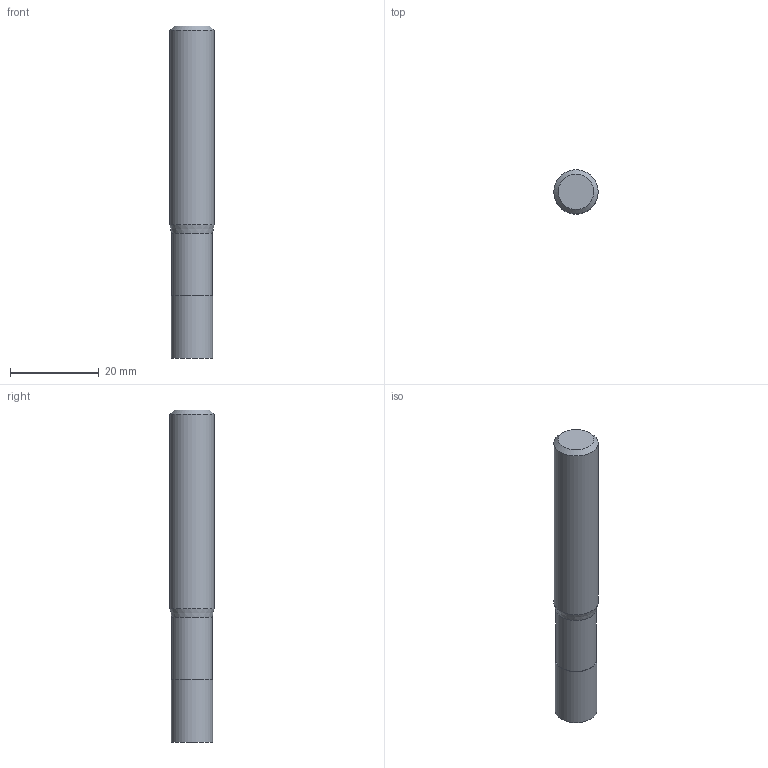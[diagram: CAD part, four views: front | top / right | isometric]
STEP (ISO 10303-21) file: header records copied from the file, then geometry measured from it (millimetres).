
FILE_DESCRIPTION((''),'2;1');
FILE_NAME('C:\Users\nsx150\AppData\Local\Temp\Mastercam 2021\EUJSUNXURU\TEMP.step','2021-04-22T10:29:46',(''),(''),'STEP Write','Mastercam 2021 ... CNC Software, Inc.','');
FILE_SCHEMA(('AUTOMOTIVE_DESIGN'));
Length unit declared in the file: millimetre
Products named in the file (1): None
Bounding box: 10 x 10 x 75 mm (x, y, z)
Volume: 5565.3 mm3; surface area: 2557.2 mm2
Topology: 2 solids, 2 shells, 9 faces, 12 edges, 7 vertices
Faces by surface type: plane 4, cylinder 3, cone 2
Full cylindrical faces by diameter (mm): 9.2 x1, 9.4 x1, 10 x1
Entity records: 211 total; most frequent: DIRECTION 36, CARTESIAN_POINT 25, AXIS2_PLACEMENT_3D 18, ORIENTED_EDGE 14, EDGE_LOOP 14, STYLED_ITEM 12, ADVANCED_FACE 9, FACE_BOUND 8
